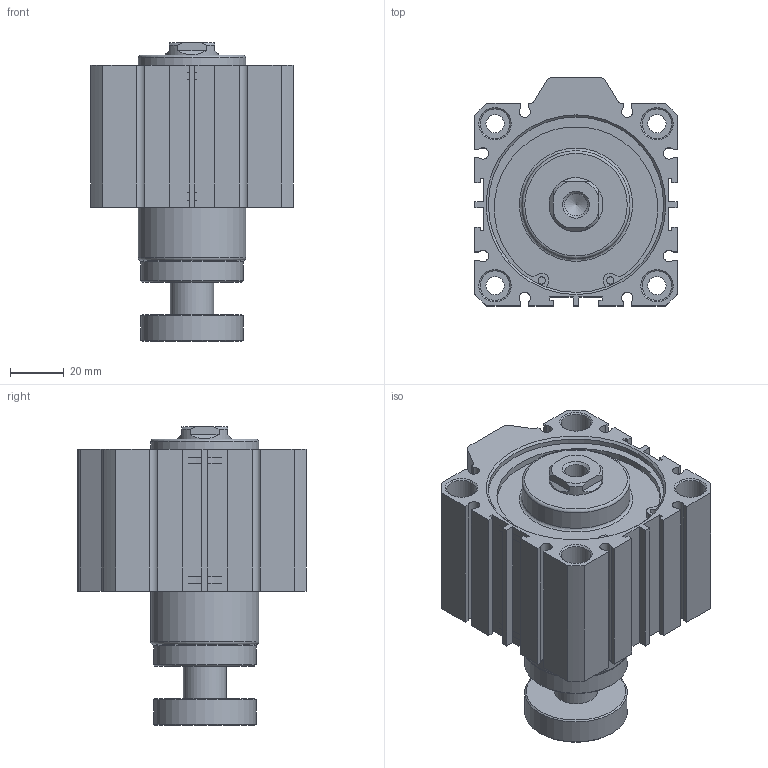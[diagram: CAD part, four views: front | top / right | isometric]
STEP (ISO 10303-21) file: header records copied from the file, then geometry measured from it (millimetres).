
FILE_DESCRIPTION((''),'2;1');
FILE_NAME('I:\3D電子目錄\氣缸\JDAR\JDAR\JDAR63\JDAR63x20.stp','2007-03-14T11:49:36',('662F206'),(''),'Autodesk Inventor 11','Autodesk Inventor 11','');
FILE_SCHEMA(('AUTOMOTIVE_DESIGN { 1 0 10303 214 1 1 1 1 }'));
Length unit declared in the file: millimetre
Products named in the file (3): JDAR63; R 形環 65
Assembly tree (3 placements, depth 2):
  JDAR63
    JDAR63
    R 形環 65  x2
Bounding box: 75 x 84.5 x 110.8 mm (x, y, z)
Volume: 310024 mm3; surface area: 57534.9 mm2
Topology: 3 solids, 3 shells, 197 faces, 484 edges, 317 vertices
Faces by surface type: plane 110, cylinder 58, cone 23, bspline 4, torus 2
Full cylindrical faces by diameter (mm): 2.7 x4, 3 x2, 6.8 x4, 11 x8, 16 x1, 20 x1, 38 x2, 40 x2, 65 x4, 68 x2
Entity records: 5335 total; most frequent: CARTESIAN_POINT 1013, DIRECTION 898, ORIENTED_EDGE 788, EDGE_CURVE 394, AXIS2_PLACEMENT_3D 325, VERTEX_POINT 290, EDGE_LOOP 274, VECTOR 248
